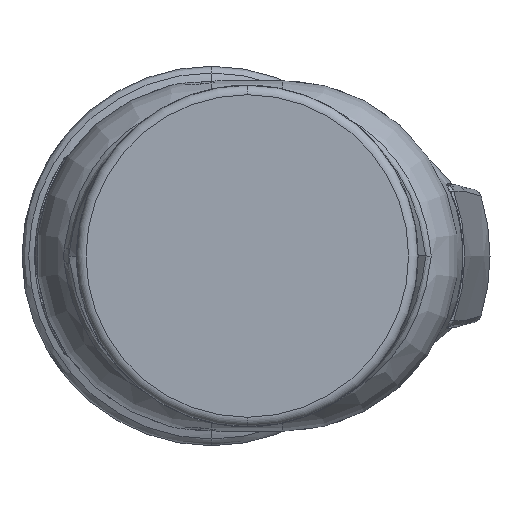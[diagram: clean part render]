
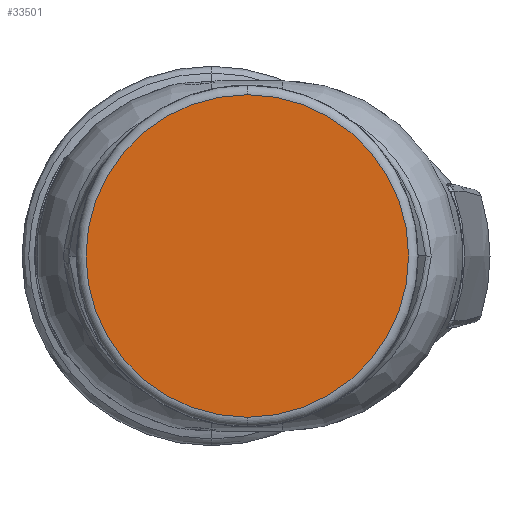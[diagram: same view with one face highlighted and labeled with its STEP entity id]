
A CAD part, left-side view. The second image highlights one B-rep face of the part: STEP entity #33501.
In plain terms, the highlighted planar face has unit normal (-1, 0, 0).
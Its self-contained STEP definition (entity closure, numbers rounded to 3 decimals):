
#205 = ORIENTED_EDGE ( 'NONE', *, *, #45602, .T. ) ;
#7663 = PLANE ( 'NONE',  #30942 ) ;
#9363 = EDGE_CURVE ( 'NONE', #32091, #46112, #40015, .T. ) ;
#10919 = DIRECTION ( 'NONE',  ( 0., 0., -1. ) ) ;
#12205 = ORIENTED_EDGE ( 'NONE', *, *, #9363, .T. ) ;
#13954 = EDGE_LOOP ( 'NONE', ( #205, #12205 ) ) ;
#14946 = DIRECTION ( 'NONE',  ( -1., 0., 0. ) ) ;
#15960 = FACE_OUTER_BOUND ( 'NONE', #13954, .T. ) ;
#16155 = CARTESIAN_POINT ( 'NONE',  ( -203., -3.75, 17. ) ) ;
#18214 = CIRCLE ( 'NONE', #28452, 17. ) ;
#20548 = DIRECTION ( 'NONE',  ( 0., 0., -1. ) ) ;
#25173 = DIRECTION ( 'NONE',  ( -1., 0., 0. ) ) ;
#27762 = DIRECTION ( 'NONE',  ( 1., 0., 0. ) ) ;
#28452 = AXIS2_PLACEMENT_3D ( 'NONE', #51019, #25173, #41514 ) ;
#28572 = CARTESIAN_POINT ( 'NONE',  ( -203., -3.75, 0. ) ) ;
#30942 = AXIS2_PLACEMENT_3D ( 'NONE', #28572, #27762, #20548 ) ;
#32091 = VERTEX_POINT ( 'NONE', #16155 ) ;
#33501 = ADVANCED_FACE ( 'NONE', ( #15960 ), #7663, .F. ) ;
#39314 = CARTESIAN_POINT ( 'NONE',  ( -203., -3.75, 0. ) ) ;
#40015 = CIRCLE ( 'NONE', #46052, 17. ) ;
#41514 = DIRECTION ( 'NONE',  ( 0., 0., -1. ) ) ;
#42447 = CARTESIAN_POINT ( 'NONE',  ( -203., -3.75, -17. ) ) ;
#45602 = EDGE_CURVE ( 'NONE', #46112, #32091, #18214, .T. ) ;
#46052 = AXIS2_PLACEMENT_3D ( 'NONE', #39314, #14946, #10919 ) ;
#46112 = VERTEX_POINT ( 'NONE', #42447 ) ;
#51019 = CARTESIAN_POINT ( 'NONE',  ( -203., -3.75, 0. ) ) ;
